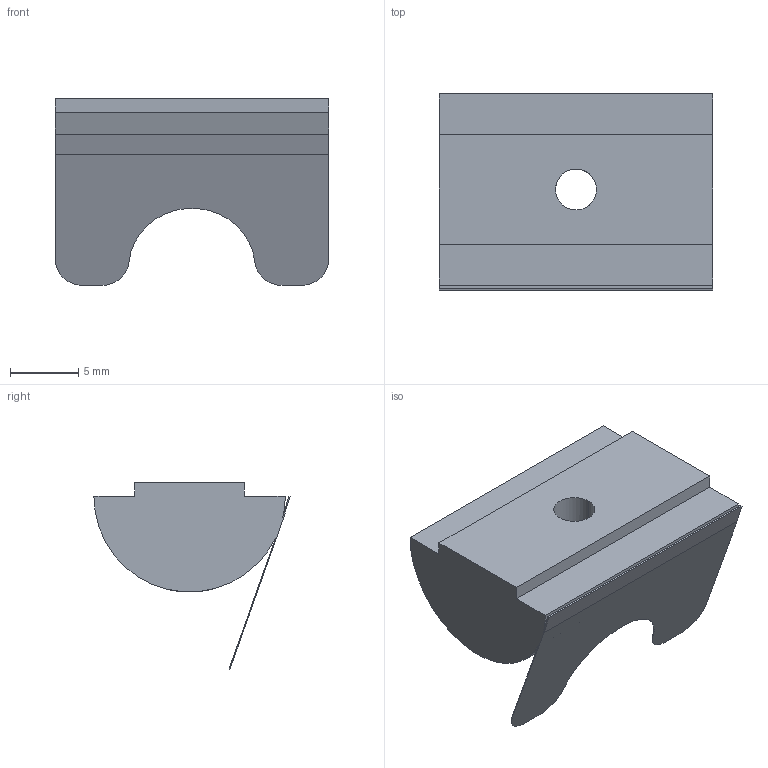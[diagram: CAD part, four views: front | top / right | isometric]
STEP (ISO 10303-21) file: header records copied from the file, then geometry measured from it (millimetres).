
FILE_DESCRIPTION (( 'STEP AP203' ), '1' );
FILE_NAME ('5257.STEP', '2016-04-16T13:57:32', ( '' ), ( '' ), 'SwSTEP 2.0', 'SolidWorks 2014', '' );
FILE_SCHEMA (( 'CONFIG_CONTROL_DESIGN' ));
Length unit declared in the file: millimetre
Products named in the file (1): 5257
Bounding box: 20 x 14.36 x 13.66 mm (x, y, z)
Volume: 1654.9 mm3; surface area: 1368.3 mm2
Topology: 1 solids, 1 shells, 23 faces, 63 edges, 42 vertices
Faces by surface type: plane 14, cylinder 9
Entity records: 858 total; most frequent: CARTESIAN_POINT 177, ORIENTED_EDGE 126, DIRECTION 125, EDGE_CURVE 63, LINE 45, VECTOR 45, VERTEX_POINT 42, AXIS2_PLACEMENT_3D 40
